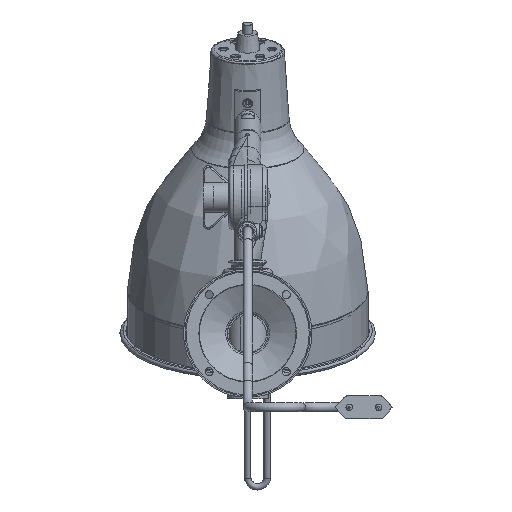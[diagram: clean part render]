
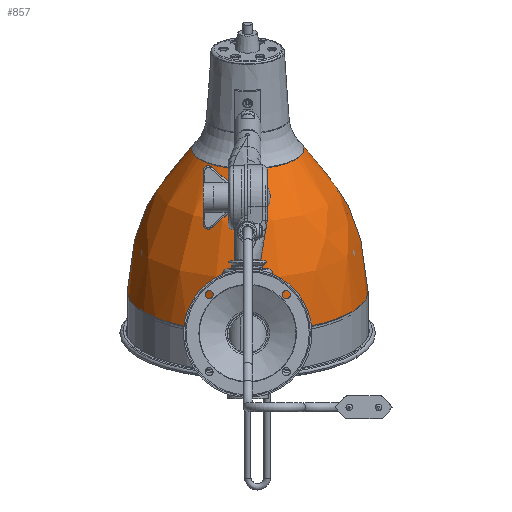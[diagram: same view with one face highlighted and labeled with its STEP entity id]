
A CAD part, front view. The second image highlights one B-rep face of the part: STEP entity #857.
In plain terms, the highlighted free-form (B-spline) face has degree [3, 3] with [4, 7] control points.
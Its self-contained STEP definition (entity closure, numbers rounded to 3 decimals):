
#857 = ADVANCED_FACE( '', ( #2184, #2185 ), #2186, .T. );
#2184 = FACE_OUTER_BOUND( '', #4767, .T. );
#2185 = FACE_OUTER_BOUND( '', #4768, .T. );
#2186 = ( BOUNDED_SURFACE(  )B_SPLINE_SURFACE( 3, 3, ( ( #4771, #4772, #4773, #4774, #4775, #4776, #4777 ), ( #4778, #4779, #4780, #4781, #4782, #4783, #4784 ), ( #4785, #4786, #4787, #4788, #4789, #4790, #4791 ), ( #4792, #4793, #4794, #4795, #4796, #4797, #4798 ) ), .UNSPECIFIED., .F., .T., .F. )B_SPLINE_SURFACE_WITH_KNOTS( ( 4, 4 ), ( 4, 3, 4 ), ( 0., 6.283 ), ( 0., 0.4, 0.8 ), .UNSPECIFIED. )GEOMETRIC_REPRESENTATION_ITEM(  )RATIONAL_B_SPLINE_SURFACE( ( ( 1., 0.333, 0.333, 1., 0.333, 0.333, 1. ), ( 0.947, 0.316, 0.316, 0.947, 0.316, 0.316, 0.947 ), ( 0.947, 0.316, 0.316, 0.947, 0.316, 0.316, 0.947 ), ( 1., 0.333, 0.333, 1., 0.333, 0.333, 1. ) ) )REPRESENTATION_ITEM( '' )SURFACE(  ) );
#4767 = EDGE_LOOP( '', ( #9305 ) );
#4768 = EDGE_LOOP( '', ( #9306 ) );
#4771 = CARTESIAN_POINT( '', ( 0., 120.015, 141.643 ) );
#4772 = CARTESIAN_POINT( '', ( 69.075, 120.015, 141.643 ) );
#4773 = CARTESIAN_POINT( '', ( 69.075, 184.924, 165.268 ) );
#4774 = CARTESIAN_POINT( '', ( 0., 184.924, 165.268 ) );
#4775 = CARTESIAN_POINT( '', ( -69.075, 184.924, 165.268 ) );
#4776 = CARTESIAN_POINT( '', ( -69.075, 120.015, 141.643 ) );
#4777 = CARTESIAN_POINT( '', ( 0., 120.015, 141.643 ) );
#4778 = CARTESIAN_POINT( '', ( 0., 104.471, 109.57 ) );
#4779 = CARTESIAN_POINT( '', ( 120.229, 104.471, 109.57 ) );
#4780 = CARTESIAN_POINT( '', ( 120.229, 217.449, 150.69 ) );
#4781 = CARTESIAN_POINT( '', ( 0., 217.449, 150.69 ) );
#4782 = CARTESIAN_POINT( '', ( -120.229, 217.449, 150.69 ) );
#4783 = CARTESIAN_POINT( '', ( -120.229, 104.471, 109.57 ) );
#4784 = CARTESIAN_POINT( '', ( 0., 104.471, 109.57 ) );
#4785 = CARTESIAN_POINT( '', ( 0., 102.649, 73.975 ) );
#4786 = CARTESIAN_POINT( '', ( 148., 102.649, 73.975 ) );
#4787 = CARTESIAN_POINT( '', ( 148., 241.724, 124.594 ) );
#4788 = CARTESIAN_POINT( '', ( 0., 241.724, 124.594 ) );
#4789 = CARTESIAN_POINT( '', ( -148., 241.724, 124.594 ) );
#4790 = CARTESIAN_POINT( '', ( -148., 102.649, 73.975 ) );
#4791 = CARTESIAN_POINT( '', ( 0., 102.649, 73.975 ) );
#4792 = CARTESIAN_POINT( '', ( 0., 114.84, 40.482 ) );
#4793 = CARTESIAN_POINT( '', ( 148., 114.84, 40.482 ) );
#4794 = CARTESIAN_POINT( '', ( 148., 253.914, 91.101 ) );
#4795 = CARTESIAN_POINT( '', ( 0., 253.914, 91.101 ) );
#4796 = CARTESIAN_POINT( '', ( -148., 253.914, 91.101 ) );
#4797 = CARTESIAN_POINT( '', ( -148., 114.84, 40.482 ) );
#4798 = CARTESIAN_POINT( '', ( 0., 114.84, 40.482 ) );
#9305 = ORIENTED_EDGE( '', *, *, #13858, .T. );
#9306 = ORIENTED_EDGE( '', *, *, #13503, .F. );
#13503 = EDGE_CURVE( '', #15456, #15456, #15457, .T. );
#13858 = EDGE_CURVE( '', #16027, #16027, #16028, .T. );
#15456 = VERTEX_POINT( '', #19037 );
#15457 = CIRCLE( '', #19038, 34.537 );
#16027 = VERTEX_POINT( '', #20526 );
#16028 = CIRCLE( '', #20527, 74. );
#19037 = CARTESIAN_POINT( '', ( 0., 120.015, 141.643 ) );
#19038 = AXIS2_PLACEMENT_3D( '', #24794, #24795, #24796 );
#20526 = CARTESIAN_POINT( '', ( 0., 114.84, 40.482 ) );
#20527 = AXIS2_PLACEMENT_3D( '', #25261, #25262, #25263 );
#24794 = CARTESIAN_POINT( '', ( 0., 152.47, 153.455 ) );
#24795 = DIRECTION( '', ( 0., -0.342, 0.94 ) );
#24796 = DIRECTION( '', ( 0., -0.94, -0.342 ) );
#25261 = CARTESIAN_POINT( '', ( 0., 184.377, 65.792 ) );
#25262 = DIRECTION( '', ( 0., -0.342, 0.94 ) );
#25263 = DIRECTION( '', ( 0., -0.94, -0.342 ) );
